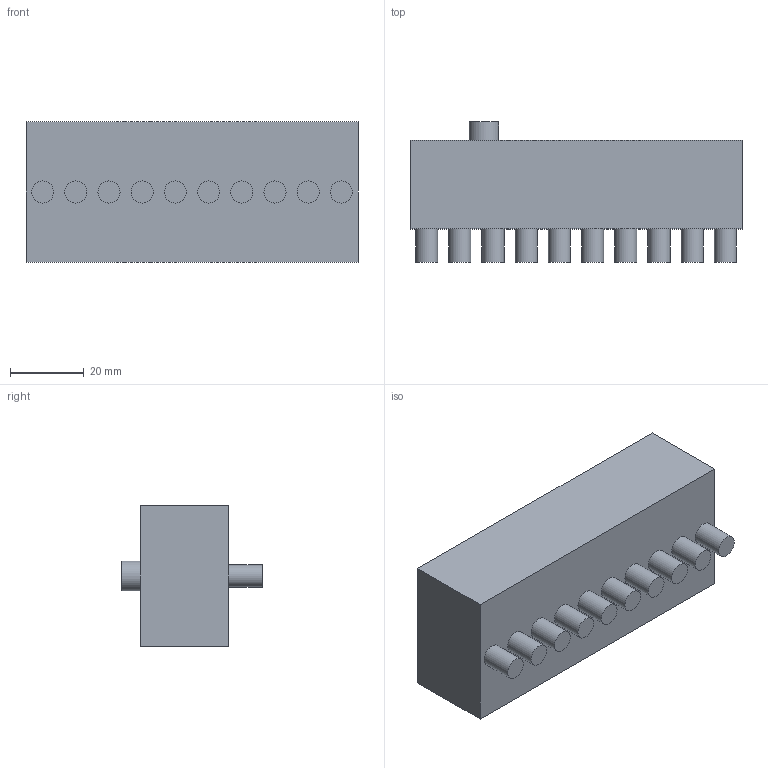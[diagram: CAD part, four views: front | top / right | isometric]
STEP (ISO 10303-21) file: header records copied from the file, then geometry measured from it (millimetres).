
FILE_DESCRIPTION(('Open CASCADE Model'),'2;1');
FILE_NAME('Open CASCADE Shape Model','2026-07-25T17:39:16',('Author'),( 'Open CASCADE'),'Open CASCADE STEP processor 7.9','build123d', 'Unknown');
FILE_SCHEMA(('AUTOMOTIVE_DESIGN { 1 0 10303 214 1 1 1 1 }'));
Length unit declared in the file: millimetre
Products named in the file (1): COMPOUND
Bounding box: 90 x 38 x 38 mm (x, y, z)
Volume: 73872.3 mm3; surface area: 19909.4 mm2
Topology: 1 solids, 1 shells, 78 faces, 132 edges, 88 vertices
Faces by surface type: plane 44, cylinder 34
Full cylindrical faces by diameter (mm): 2.5 x2, 3.2 x18, 6 x10, 6.4 x1, 8 x1, 12 x1
Entity records: 7182 total; most frequent: CARTESIAN_POINT 4370, DIRECTION 516, ORIENTED_EDGE 264, PCURVE 264, DEFINITIONAL_REPRESENTATION 264, LINE 201, VECTOR 201, AXIS2_PLACEMENT_3D 136
